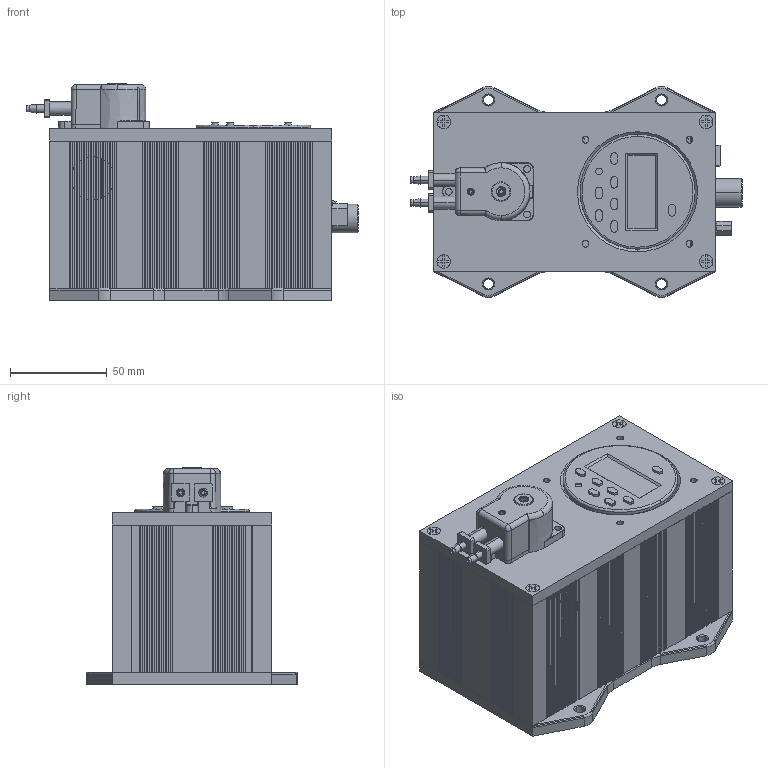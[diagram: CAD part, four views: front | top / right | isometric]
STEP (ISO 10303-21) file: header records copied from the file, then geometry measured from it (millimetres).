
FILE_DESCRIPTION(('STEP AP214'),'1');
FILE_NAME('GBX_Brushed_Buhler_Timer_100_HeadSTEP.stp','2025-06-07T20:17:06',('Scott Beresford'),('Simply Pumps'),'Spatial InterOp 3D',' ',' ');
FILE_SCHEMA(('AUTOMOTIVE_DESIGN { 1 0 10303 214 1 1 1 1 }'));
Length unit declared in the file: inch
Products named in the file (1): Part_5417652
Bounding box: 171.9 x 109.22 x 112.3 mm (x, y, z)
Volume: 268134.3 mm3; surface area: 169774.9 mm2
Topology: 23 solids, 23 shells, 2200 faces, 6009 edges, 3860 vertices
Faces by surface type: plane 1549, cylinder 332, cone 142, torus 102, bspline 65, sphere 10
Entity records: 91327 total; most frequent: CARTESIAN_POINT 17747, ORIENTED_EDGE 11986, DIRECTION 11023, EDGE_CURVE 5993, LINE 4593, VECTOR 4593, VERTEX_POINT 3856, AXIS2_PLACEMENT_3D 3215
